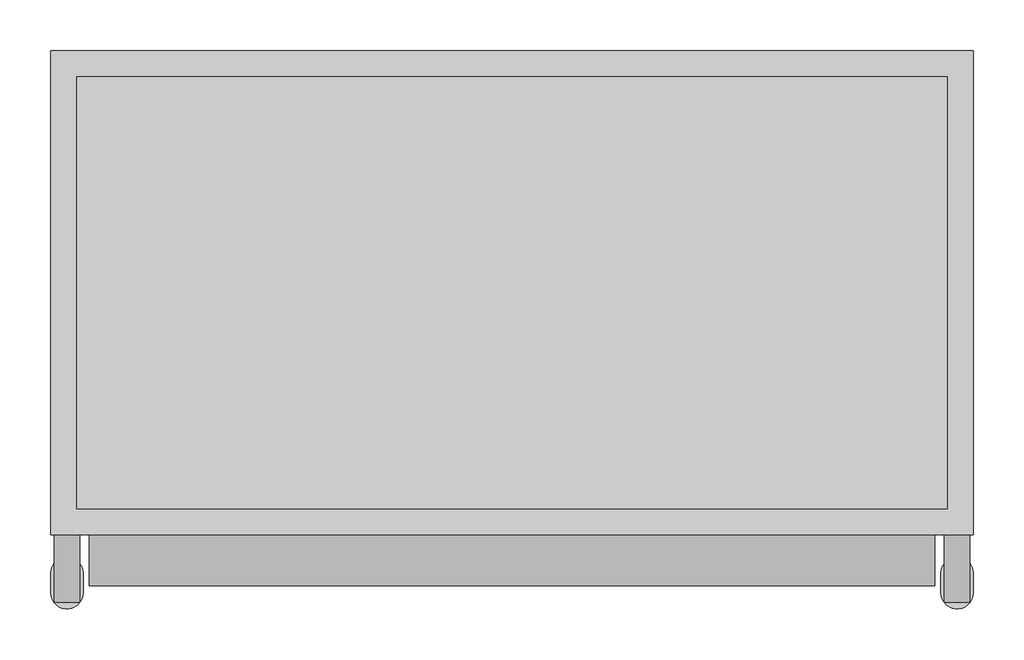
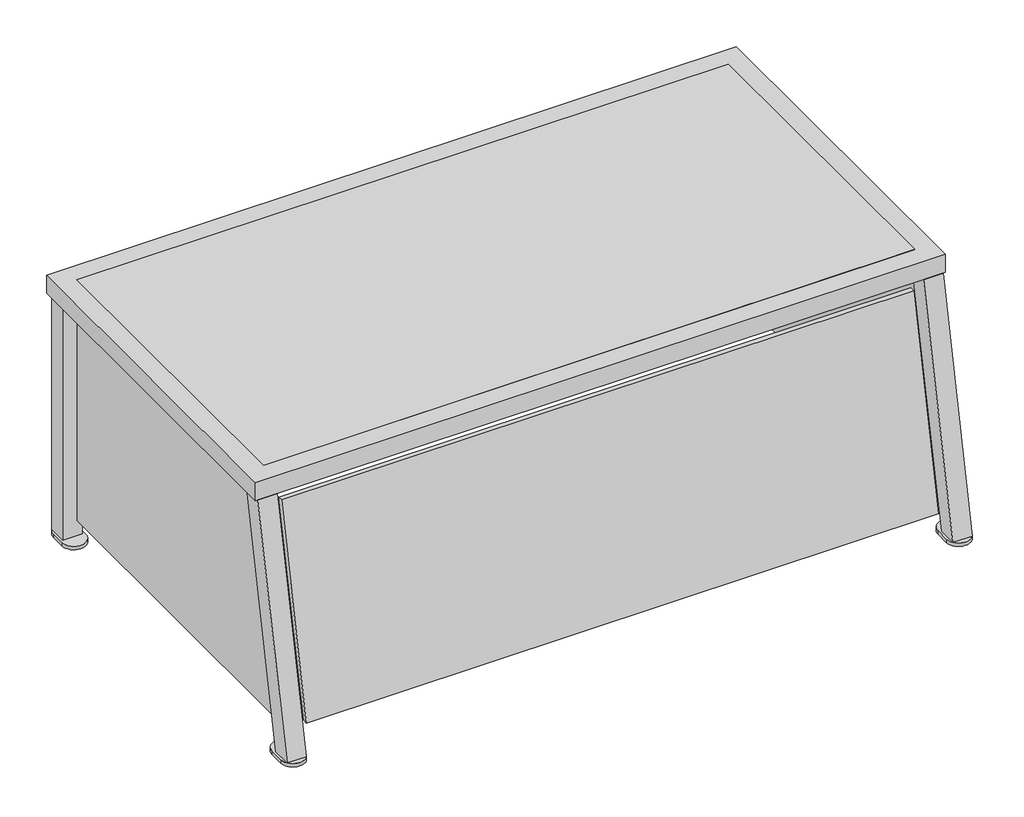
# One storey: 1 proxy.
"""IFC4 building model written with IfcOpenShell, lengths in millimetres."""

from ifc_helpers import new_model, si_unit, origin, place, context, project, spatial, transform, mapped, element, save
from components import specialty_equipment_023d3a16

model = new_model("IFC4")

# Units and contexts
model_context = context("Model", 3, world=origin())
ifc_project = project(units=[si_unit("LENGTHUNIT", "METRE", prefix="MILLI")], contexts=[model_context])

# Site, building, storey
site = spatial("IfcSite", under=ifc_project)
building = spatial("IfcBuilding", under=site)
storey = spatial("IfcBuildingStorey", under=building, Name="Level 02 - T.O. Footing", Elevation=-2743.2)

# Proxy
placement = place(None, origin())
specialty_equipment_shape = specialty_equipment_023d3a16(model_context)
element("IfcBuildingElementProxy", 1, Name="QF_AtlasMetal_PRGT_cat : QF_AtlasMetal_PRGT_cat", ObjectType="QF_AtlasMetal_PRGT_cat : QF_AtlasMetal_PRGT_cat", at=placement, inside=storey, context=model_context, shape_type="MappedRepresentation", body=[
    mapped(specialty_equipment_shape, transform((7161.3813643, 9010.4260746, -2743.2), x_axis=(1.0, 0.0, 0.0), y_axis=(0.0, 1.0, 0.0), z_axis=(0.0, 0.0, 1.0))),
])

save(model, "model.ifc")
